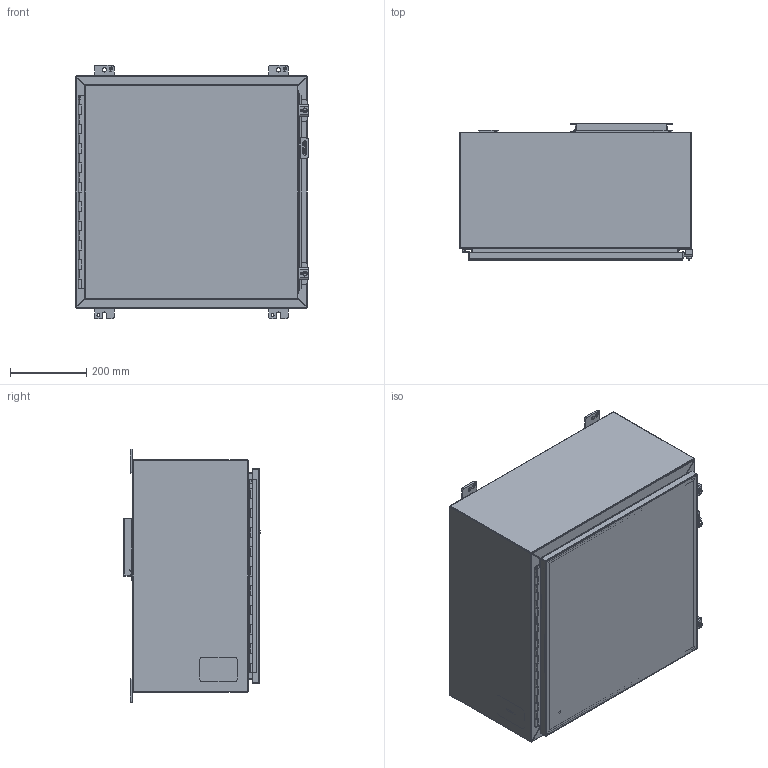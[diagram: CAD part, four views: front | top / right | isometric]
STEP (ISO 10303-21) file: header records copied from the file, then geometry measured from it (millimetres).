
FILE_DESCRIPTION(/* description */ ('Unknown'),/* implementation_level */ '2;1');
FILE_NAME(/* name */ '1418J12LP',/* time_stamp */ '2026-02-20T16:31:56-05:00',/* author */ ('Unknown'),/* organization */ ('Unknown'),/* preprocessor_version */ 'ST-DEVELOPER v18.104',/* originating_system */ 'Solid Edge',/* authorisation */ 'Unknown');
FILE_SCHEMA (('AUTOMOTIVE_DESIGN {1 0 10303 214 3 1 1}'));
Length unit declared in the file: millimetre
Products named in the file (31): 1418J12LP; STD26094; KIT90256; LAB30005; NTS165305; NTS16535; STD21878; COM42780; KIT90518; WAF25059; NTS166105; COM40153-1; HNG10620-20B; COM71780-11; COM40153-2; PNT11078; HNG10620-20C; COM70219_oa_0; COM48478; FET07710; AKT90223; SPR20265; SCC19011; WAF25035; COM42667; HNG10620-20P; BUL10020; QLB30109; PKT99; COM48509
Assembly tree (42 placements, depth 3):
  1418J12LP
    STD26094  x4
    KIT90256
      LAB30005
      NTS165305
      NTS16535
    STD21878
    COM42780  x2
    KIT90518
      WAF25059
      NTS166105
      LAB30005
    COM40153-1
    HNG10620-20B
    COM71780-11
      COM40153-2
      PNT11078
      HNG10620-20C
      COM70219_oa_0
      COM71780-11
      STD21878
    COM48478
    FET07710  x4
    PNT11078
    AKT90223  x2
      SPR20265
      SCC19011
      WAF25035
      COM42667
    HNG10620-20P
    BUL10020
    QLB30109
    PKT99
    COM48509  x2
Bounding box: 612.77 x 358.77 x 666.75 mm (x, y, z)
Volume: 3313529 mm3; surface area: 3567536.9 mm2
Topology: 36 solids, 37 shells, 1177 faces, 3035 edges, 1966 vertices
Faces by surface type: plane 770, cylinder 302, bspline 57, cone 26, torus 20, sphere 2
Full cylindrical faces by diameter (mm): 3.175 x1, 4.763 x1, 4.976 x1, 5.41 x2, 6.198 x2, 6.35 x3, 6.731 x2, 7.137 x2, 7.805 x1, 7.938 x4, 8.382 x4, 9.525 x4, 9.906 x2, 11.113 x4, 11.303 x1, 12.7 x2, 16.51 x4, 25.4 x1, 88.9 x1
Entity records: 28508 total; most frequent: CARTESIAN_POINT 7755, ORIENTED_EDGE 4148, DIRECTION 3909, EDGE_CURVE 2074, LINE 1379, VECTOR 1379, VERTEX_POINT 1357, AXIS2_PLACEMENT_3D 1265
